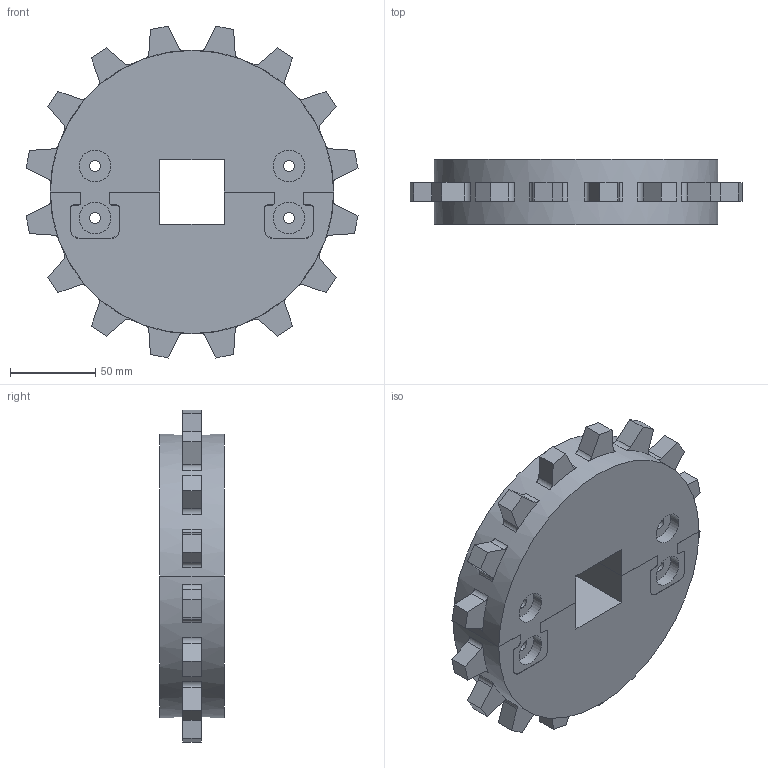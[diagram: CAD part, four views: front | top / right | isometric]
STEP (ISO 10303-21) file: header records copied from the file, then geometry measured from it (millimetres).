
FILE_DESCRIPTION((''),'2;1');
FILE_NAME('S1700_SPLIT_77X15_40_25_60_SQ_ASM','2008-12-12T',('jmumphre'),(''),'PRO/ENGINEER BY PARAMETRIC TECHNOLOGY CORPORATION, 2008150','PRO/ENGINEER BY PARAMETRIC TECHNOLOGY CORPORATION, 2008150','');
FILE_SCHEMA(('CONFIG_CONTROL_DESIGN'));
Length unit declared in the file: inch
Products named in the file (3): S1700_SPLIT_77X15_40_25_60__AF0; S1700_SPLIT_77X15_40_25_60__AF1; S1700_SPLIT_77X15_40_25_60_SQ_ASM
Assembly tree (2 placements, depth 2):
  S1700_SPLIT_77X15_40_25_60_SQ_ASM
    S1700_SPLIT_77X15_40_25_60__AF0
    S1700_SPLIT_77X15_40_25_60__AF1
Bounding box: 194.72 x 37.99 x 194.72 mm (x, y, z)
Volume: 789922.5 mm3; surface area: 107794.7 mm2
Topology: 2 solids, 2 shells, 280 faces, 756 edges, 504 vertices
Faces by surface type: plane 166, cylinder 114
Entity records: 8986 total; most frequent: DIRECTION 1586, CARTESIAN_POINT 1545, ORIENTED_EDGE 1512, EDGE_CURVE 756, AXIS2_PLACEMENT_3D 545, VERTEX_POINT 504, VECTOR 496, LINE 496
